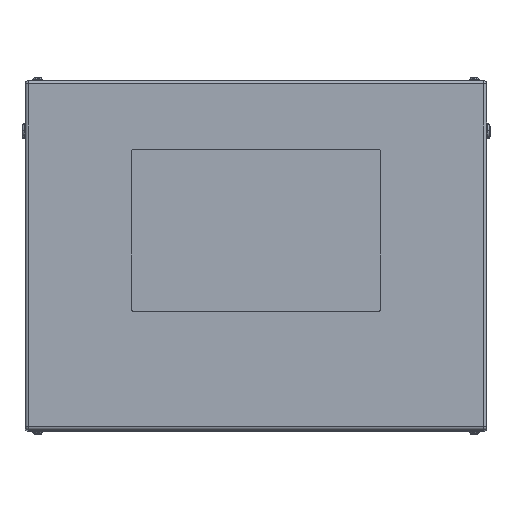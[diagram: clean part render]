
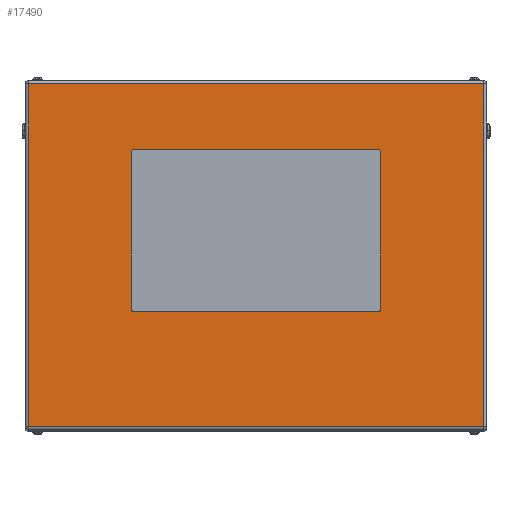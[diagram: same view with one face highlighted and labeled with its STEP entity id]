
A CAD part, top view. The second image highlights one B-rep face of the part: STEP entity #17490.
In plain terms, the highlighted planar face has unit normal (0, 0, 1).
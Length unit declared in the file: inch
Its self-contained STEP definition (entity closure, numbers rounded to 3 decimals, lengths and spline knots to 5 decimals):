
#156 = CARTESIAN_POINT ( 'NONE',  ( -9.75, 8.5, 32. ) ) ;
#702 = DIRECTION ( 'NONE',  ( -1., 0., 0. ) ) ;
#1034 = CARTESIAN_POINT ( 'NONE',  ( 10., -4.25, 32. ) ) ;
#1141 = CARTESIAN_POINT ( 'NONE',  ( -18.234, -13.734, 32. ) ) ;
#1299 = VERTEX_POINT ( 'NONE', #1034 ) ;
#1334 = EDGE_CURVE ( 'NONE', #8251, #12301, #7470, .T. ) ;
#1496 = CARTESIAN_POINT ( 'NONE',  ( -18.234, 14., 32. ) ) ;
#1685 = DIRECTION ( 'NONE',  ( 0., 0., 1. ) ) ;
#1746 = ORIENTED_EDGE ( 'NONE', *, *, #1334, .T. ) ;
#1893 = DIRECTION ( 'NONE',  ( -1., 0., 0. ) ) ;
#1939 = CARTESIAN_POINT ( 'NONE',  ( -9.75, -4.25, 32. ) ) ;
#2214 = CARTESIAN_POINT ( 'NONE',  ( -9.75, 8.5, 32. ) ) ;
#2540 = EDGE_CURVE ( 'NONE', #14855, #3238, #8010, .T. ) ;
#2601 = CARTESIAN_POINT ( 'NONE',  ( 18.234, -13.734, 32. ) ) ;
#2799 = CARTESIAN_POINT ( 'NONE',  ( -10., -4.25, 32. ) ) ;
#2977 = EDGE_CURVE ( 'NONE', #3238, #20519, #14086, .T. ) ;
#3238 = VERTEX_POINT ( 'NONE', #12501 ) ;
#3255 = ORIENTED_EDGE ( 'NONE', *, *, #6891, .F. ) ;
#3695 = CARTESIAN_POINT ( 'NONE',  ( -9.75, -4.5, 32. ) ) ;
#3715 = CARTESIAN_POINT ( 'NONE',  ( 9.75, -4.5, 32. ) ) ;
#3864 = EDGE_CURVE ( 'NONE', #15556, #8251, #19092, .T. ) ;
#4633 = DIRECTION ( 'NONE',  ( -1., 0., 0. ) ) ;
#5391 = CARTESIAN_POINT ( 'NONE',  ( 18.234, 13.734, 32. ) ) ;
#5446 = EDGE_CURVE ( 'NONE', #15005, #16149, #15773, .T. ) ;
#6430 = CARTESIAN_POINT ( 'NONE',  ( 10., 8.25, 32. ) ) ;
#6517 = EDGE_CURVE ( 'NONE', #16149, #1299, #13883, .T. ) ;
#6807 = AXIS2_PLACEMENT_3D ( 'NONE', #1939, #8568, #14733 ) ;
#6891 = EDGE_CURVE ( 'NONE', #1299, #20319, #13042, .T. ) ;
#7321 = DIRECTION ( 'NONE',  ( 0., -1., 0. ) ) ;
#7372 = DIRECTION ( 'NONE',  ( 0., 0., 1. ) ) ;
#7470 = LINE ( 'NONE', #15330, #15325 ) ;
#7501 = CARTESIAN_POINT ( 'NONE',  ( 18.5, 13.734, 32. ) ) ;
#7719 = FACE_OUTER_BOUND ( 'NONE', #19233, .T. ) ;
#7805 = CARTESIAN_POINT ( 'NONE',  ( -9.75, -4.5, 32. ) ) ;
#8010 = CIRCLE ( 'NONE', #19722, 0.25 ) ;
#8251 = VERTEX_POINT ( 'NONE', #2601 ) ;
#8287 = AXIS2_PLACEMENT_3D ( 'NONE', #15322, #7372, #702 ) ;
#8555 = VECTOR ( 'NONE', #18141, 39.37008 ) ;
#8568 = DIRECTION ( 'NONE',  ( 0., 0., 1. ) ) ;
#9143 = ORIENTED_EDGE ( 'NONE', *, *, #18149, .T. ) ;
#9968 = EDGE_CURVE ( 'NONE', #16975, #15556, #14308, .T. ) ;
#10471 = ORIENTED_EDGE ( 'NONE', *, *, #12695, .F. ) ;
#10532 = VECTOR ( 'NONE', #14176, 39.37008 ) ;
#11023 = ORIENTED_EDGE ( 'NONE', *, *, #3864, .T. ) ;
#11554 = FACE_BOUND ( 'NONE', #20752, .T. ) ;
#11808 = ORIENTED_EDGE ( 'NONE', *, *, #17289, .F. ) ;
#11958 = CIRCLE ( 'NONE', #8287, 0.25 ) ;
#12182 = DIRECTION ( 'NONE',  ( 0., 0., 1. ) ) ;
#12212 = VECTOR ( 'NONE', #4633, 39.37008 ) ;
#12301 = VERTEX_POINT ( 'NONE', #5391 ) ;
#12497 = AXIS2_PLACEMENT_3D ( 'NONE', #20572, #14688, #1893 ) ;
#12501 = CARTESIAN_POINT ( 'NONE',  ( -10., 8.25, 32. ) ) ;
#12695 = EDGE_CURVE ( 'NONE', #20206, #14855, #15982, .T. ) ;
#12779 = ORIENTED_EDGE ( 'NONE', *, *, #5446, .F. ) ;
#12831 = DIRECTION ( 'NONE',  ( 0., 1., 0. ) ) ;
#13042 = LINE ( 'NONE', #6430, #14578 ) ;
#13079 = ORIENTED_EDGE ( 'NONE', *, *, #2977, .F. ) ;
#13355 = VECTOR ( 'NONE', #17657, 39.37008 ) ;
#13641 = CARTESIAN_POINT ( 'NONE',  ( -9.75, 8.25, 32. ) ) ;
#13883 = CIRCLE ( 'NONE', #16237, 0.25 ) ;
#14086 = LINE ( 'NONE', #17346, #15709 ) ;
#14176 = DIRECTION ( 'NONE',  ( 1., 0., 0. ) ) ;
#14232 = CARTESIAN_POINT ( 'NONE',  ( -18.234, 13.734, 32. ) ) ;
#14275 = CARTESIAN_POINT ( 'NONE',  ( 18.234, -13.734, 32. ) ) ;
#14308 = LINE ( 'NONE', #1496, #13355 ) ;
#14578 = VECTOR ( 'NONE', #12831, 39.37008 ) ;
#14688 = DIRECTION ( 'NONE',  ( 0., 0., -1. ) ) ;
#14733 = DIRECTION ( 'NONE',  ( 1., 0., 0. ) ) ;
#14791 = DIRECTION ( 'NONE',  ( 1., 0., 0. ) ) ;
#14855 = VERTEX_POINT ( 'NONE', #156 ) ;
#15005 = VERTEX_POINT ( 'NONE', #3695 ) ;
#15322 = CARTESIAN_POINT ( 'NONE',  ( 9.75, 8.25, 32. ) ) ;
#15325 = VECTOR ( 'NONE', #20143, 39.37008 ) ;
#15330 = CARTESIAN_POINT ( 'NONE',  ( 18.234, 14., 32. ) ) ;
#15556 = VERTEX_POINT ( 'NONE', #1141 ) ;
#15709 = VECTOR ( 'NONE', #7321, 39.37008 ) ;
#15773 = LINE ( 'NONE', #7805, #10532 ) ;
#15840 = CIRCLE ( 'NONE', #6807, 0.25 ) ;
#15982 = LINE ( 'NONE', #2214, #8555 ) ;
#16095 = ORIENTED_EDGE ( 'NONE', *, *, #2540, .F. ) ;
#16149 = VERTEX_POINT ( 'NONE', #3715 ) ;
#16237 = AXIS2_PLACEMENT_3D ( 'NONE', #16264, #1685, #14791 ) ;
#16259 = PLANE ( 'NONE',  #12497 ) ;
#16264 = CARTESIAN_POINT ( 'NONE',  ( 9.75, -4.25, 32. ) ) ;
#16975 = VERTEX_POINT ( 'NONE', #14232 ) ;
#17116 = DIRECTION ( 'NONE',  ( 1., 0., 0. ) ) ;
#17289 = EDGE_CURVE ( 'NONE', #20519, #15005, #15840, .T. ) ;
#17306 = CARTESIAN_POINT ( 'NONE',  ( 10., 8.25, 32. ) ) ;
#17346 = CARTESIAN_POINT ( 'NONE',  ( -10., 8.25, 32. ) ) ;
#17400 = ORIENTED_EDGE ( 'NONE', *, *, #6517, .F. ) ;
#17490 = ADVANCED_FACE ( 'NONE', ( #11554, #7719 ), #16259, .F. ) ;
#17657 = DIRECTION ( 'NONE',  ( 0., -1., 0. ) ) ;
#18053 = VECTOR ( 'NONE', #17116, 39.37008 ) ;
#18141 = DIRECTION ( 'NONE',  ( -1., 0., 0. ) ) ;
#18149 = EDGE_CURVE ( 'NONE', #12301, #16975, #20475, .T. ) ;
#18446 = DIRECTION ( 'NONE',  ( 1., 0., 0. ) ) ;
#19092 = LINE ( 'NONE', #14275, #18053 ) ;
#19233 = EDGE_LOOP ( 'NONE', ( #20631, #11023, #1746, #9143 ) ) ;
#19722 = AXIS2_PLACEMENT_3D ( 'NONE', #13641, #12182, #18446 ) ;
#19725 = ORIENTED_EDGE ( 'NONE', *, *, #20508, .F. ) ;
#20056 = CARTESIAN_POINT ( 'NONE',  ( 9.75, 8.5, 32. ) ) ;
#20143 = DIRECTION ( 'NONE',  ( 0., 1., 0. ) ) ;
#20206 = VERTEX_POINT ( 'NONE', #20056 ) ;
#20319 = VERTEX_POINT ( 'NONE', #17306 ) ;
#20475 = LINE ( 'NONE', #7501, #12212 ) ;
#20508 = EDGE_CURVE ( 'NONE', #20319, #20206, #11958, .T. ) ;
#20519 = VERTEX_POINT ( 'NONE', #2799 ) ;
#20572 = CARTESIAN_POINT ( 'NONE',  ( 18.5, 14., 32. ) ) ;
#20631 = ORIENTED_EDGE ( 'NONE', *, *, #9968, .T. ) ;
#20752 = EDGE_LOOP ( 'NONE', ( #12779, #11808, #13079, #16095, #10471, #19725, #3255, #17400 ) ) ;
